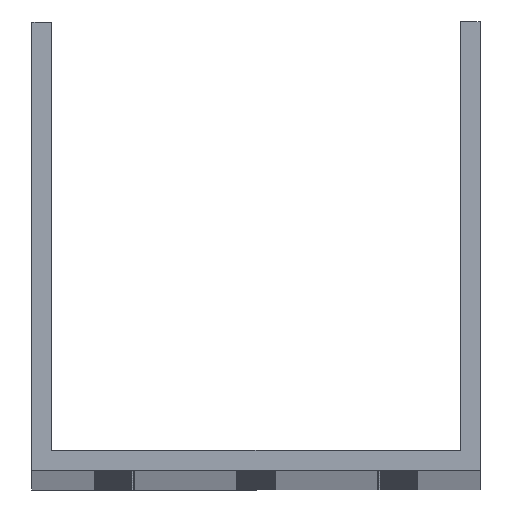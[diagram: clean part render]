
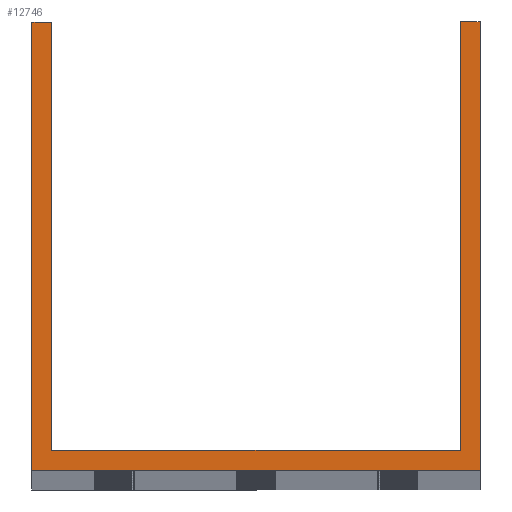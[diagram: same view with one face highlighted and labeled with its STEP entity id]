
A CAD part, top view. The second image highlights one B-rep face of the part: STEP entity #12746.
In plain terms, the highlighted planar face has unit normal (0, 0, 1).
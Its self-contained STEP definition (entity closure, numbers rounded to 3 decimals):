
#82 = CARTESIAN_POINT ( 'NONE',  ( -39.5, 79., 1000. ) ) ;
#150 = ORIENTED_EDGE ( 'NONE', *, *, #45701, .F. ) ;
#243 = VERTEX_POINT ( 'NONE', #19650 ) ;
#668 = VERTEX_POINT ( 'NONE', #29378 ) ;
#2468 = CARTESIAN_POINT ( 'NONE',  ( -39.5, 79., 1000. ) ) ;
#2777 = PLANE ( 'NONE',  #42370 ) ;
#2882 = LINE ( 'NONE', #20550, #22198 ) ;
#4556 = LINE ( 'NONE', #18745, #9347 ) ;
#5264 = ORIENTED_EDGE ( 'NONE', *, *, #10746, .F. ) ;
#5451 = ORIENTED_EDGE ( 'NONE', *, *, #33331, .T. ) ;
#5738 = CARTESIAN_POINT ( 'NONE',  ( 39.5, 79., 1000. ) ) ;
#5868 = VECTOR ( 'NONE', #44969, 1000. ) ;
#6680 = LINE ( 'NONE', #17147, #24275 ) ;
#6823 = DIRECTION ( 'NONE',  ( -1., 0., 0. ) ) ;
#8660 = VERTEX_POINT ( 'NONE', #14143 ) ;
#9170 = LINE ( 'NONE', #13590, #5868 ) ;
#9347 = VECTOR ( 'NONE', #21562, 1000. ) ;
#10069 = DIRECTION ( 'NONE',  ( 0., -1., 0. ) ) ;
#10746 = EDGE_CURVE ( 'NONE', #8660, #37891, #2882, .T. ) ;
#11546 = CARTESIAN_POINT ( 'NONE',  ( -36., 3.5, 1000. ) ) ;
#11563 = VERTEX_POINT ( 'NONE', #5738 ) ;
#12746 = ADVANCED_FACE ( 'NONE', ( #28129 ), #2777, .T. ) ;
#12792 = ORIENTED_EDGE ( 'NONE', *, *, #26968, .T. ) ;
#13191 = DIRECTION ( 'NONE',  ( 0., 1., 0. ) ) ;
#13590 = CARTESIAN_POINT ( 'NONE',  ( 39.5, 79., 1000. ) ) ;
#14143 = CARTESIAN_POINT ( 'NONE',  ( -36., 79., 1000. ) ) ;
#14471 = CARTESIAN_POINT ( 'NONE',  ( -39.5, 0., 1000. ) ) ;
#14710 = DIRECTION ( 'NONE',  ( 1., 0., 0. ) ) ;
#15159 = LINE ( 'NONE', #14471, #31041 ) ;
#16462 = CARTESIAN_POINT ( 'NONE',  ( 36., 79., 1000. ) ) ;
#16651 = DIRECTION ( 'NONE',  ( 0., -1., 0. ) ) ;
#16959 = EDGE_CURVE ( 'NONE', #243, #22258, #15159, .T. ) ;
#17147 = CARTESIAN_POINT ( 'NONE',  ( 36., 79., 1000. ) ) ;
#17199 = DIRECTION ( 'NONE',  ( 1., 0., 0. ) ) ;
#17994 = EDGE_CURVE ( 'NONE', #8660, #668, #38203, .T. ) ;
#18745 = CARTESIAN_POINT ( 'NONE',  ( -39.5, 79., 1000. ) ) ;
#19650 = CARTESIAN_POINT ( 'NONE',  ( -39.5, 0., 1000. ) ) ;
#20536 = VECTOR ( 'NONE', #16651, 1000. ) ;
#20550 = CARTESIAN_POINT ( 'NONE',  ( -36., 79., 1000. ) ) ;
#20697 = CARTESIAN_POINT ( 'NONE',  ( 0., 0., 1000. ) ) ;
#21306 = VERTEX_POINT ( 'NONE', #23866 ) ;
#21562 = DIRECTION ( 'NONE',  ( -1., 0., 0. ) ) ;
#21849 = ORIENTED_EDGE ( 'NONE', *, *, #16959, .T. ) ;
#22006 = VECTOR ( 'NONE', #39350, 1000. ) ;
#22198 = VECTOR ( 'NONE', #10069, 1000. ) ;
#22258 = VERTEX_POINT ( 'NONE', #29979 ) ;
#23718 = ORIENTED_EDGE ( 'NONE', *, *, #17994, .T. ) ;
#23866 = CARTESIAN_POINT ( 'NONE',  ( 36., 3.5, 1000. ) ) ;
#24275 = VECTOR ( 'NONE', #13191, 1000. ) ;
#25182 = CARTESIAN_POINT ( 'NONE',  ( -39.5, 3.5, 1000. ) ) ;
#26968 = EDGE_CURVE ( 'NONE', #11563, #30486, #4556, .T. ) ;
#28129 = FACE_OUTER_BOUND ( 'NONE', #39675, .T. ) ;
#29378 = CARTESIAN_POINT ( 'NONE',  ( -39.5, 79., 1000. ) ) ;
#29979 = CARTESIAN_POINT ( 'NONE',  ( 39.5, 0., 1000. ) ) ;
#30486 = VERTEX_POINT ( 'NONE', #16462 ) ;
#31041 = VECTOR ( 'NONE', #14710, 1000. ) ;
#31842 = VECTOR ( 'NONE', #6823, 1000. ) ;
#32278 = ORIENTED_EDGE ( 'NONE', *, *, #45009, .F. ) ;
#33331 = EDGE_CURVE ( 'NONE', #668, #243, #45239, .T. ) ;
#33524 = ORIENTED_EDGE ( 'NONE', *, *, #42231, .T. ) ;
#34882 = DIRECTION ( 'NONE',  ( 0., 0., 1. ) ) ;
#37891 = VERTEX_POINT ( 'NONE', #11546 ) ;
#38203 = LINE ( 'NONE', #82, #31842 ) ;
#39350 = DIRECTION ( 'NONE',  ( 1., 0., 0. ) ) ;
#39675 = EDGE_LOOP ( 'NONE', ( #5264, #23718, #5451, #21849, #33524, #12792, #150, #32278 ) ) ;
#42231 = EDGE_CURVE ( 'NONE', #22258, #11563, #9170, .T. ) ;
#42370 = AXIS2_PLACEMENT_3D ( 'NONE', #20697, #34882, #17199 ) ;
#42821 = LINE ( 'NONE', #25182, #22006 ) ;
#44969 = DIRECTION ( 'NONE',  ( 0., 1., 0. ) ) ;
#45009 = EDGE_CURVE ( 'NONE', #37891, #21306, #42821, .T. ) ;
#45239 = LINE ( 'NONE', #2468, #20536 ) ;
#45701 = EDGE_CURVE ( 'NONE', #21306, #30486, #6680, .T. ) ;
